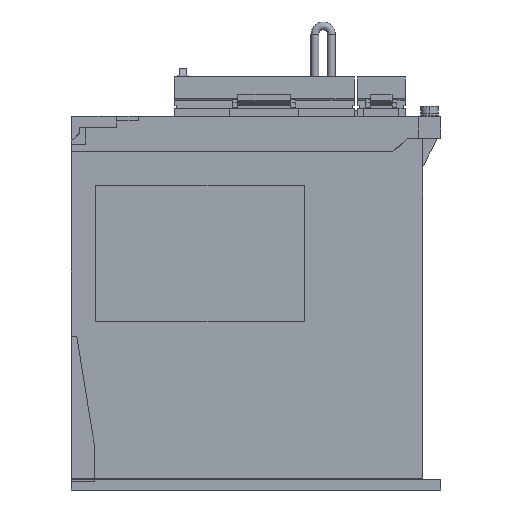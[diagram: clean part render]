
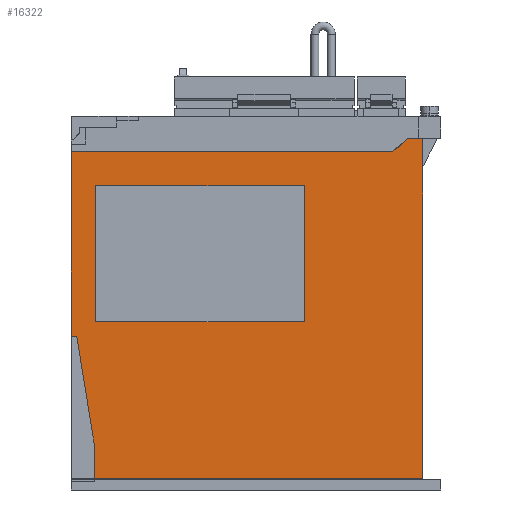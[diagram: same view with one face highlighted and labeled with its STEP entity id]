
A CAD part, left-side view. The second image highlights one B-rep face of the part: STEP entity #16322.
In plain terms, the highlighted planar face has unit normal (-1, 0, 0).
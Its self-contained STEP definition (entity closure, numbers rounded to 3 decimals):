
#14566 = VERTEX_POINT ( 'NONE', #41613 ) ;
#14568 = EDGE_CURVE ( 'NONE', #14566, #14569, #41612, .T. ) ;
#14569 = VERTEX_POINT ( 'NONE', #41608 ) ;
#14814 = VERTEX_POINT ( 'NONE', #42078 ) ;
#14816 = EDGE_CURVE ( 'NONE', #14814, #14817, #42077, .T. ) ;
#14817 = VERTEX_POINT ( 'NONE', #42073 ) ;
#15068 = VERTEX_POINT ( 'NONE', #42483 ) ;
#15183 = VERTEX_POINT ( 'NONE', #42662 ) ;
#15185 = EDGE_CURVE ( 'NONE', #15068, #15183, #42661, .T. ) ;
#16305 = EDGE_LOOP ( 'NONE', ( #16306, #16307, #16370, #16373, #16375, #16376, #16378, #16379, #16352 ) ) ;
#16306 = ORIENTED_EDGE ( 'NONE', *, *, #14568, .F. ) ;
#16307 = ORIENTED_EDGE ( 'NONE', *, *, #16308, .F. ) ;
#16308 = EDGE_CURVE ( 'NONE', #16309, #14566, #44622, .T. ) ;
#16309 = VERTEX_POINT ( 'NONE', #44618 ) ;
#16322 = ADVANCED_FACE ( 'NONE', ( #44658, #44657 ), #44656, .F. ) ;
#16323 = EDGE_LOOP ( 'NONE', ( #16324, #16384, #16387, #16390 ) ) ;
#16324 = ORIENTED_EDGE ( 'NONE', *, *, #16325, .F. ) ;
#16325 = EDGE_CURVE ( 'NONE', #16326, #16383, #44651, .T. ) ;
#16326 = VERTEX_POINT ( 'NONE', #44647 ) ;
#16352 = ORIENTED_EDGE ( 'NONE', *, *, #16354, .T. ) ;
#16354 = EDGE_CURVE ( 'NONE', #16381, #14569, #44674, .T. ) ;
#16370 = ORIENTED_EDGE ( 'NONE', *, *, #16371, .F. ) ;
#16371 = EDGE_CURVE ( 'NONE', #16372, #16309, #44705, .T. ) ;
#16372 = VERTEX_POINT ( 'NONE', #44701 ) ;
#16373 = ORIENTED_EDGE ( 'NONE', *, *, #16374, .F. ) ;
#16374 = EDGE_CURVE ( 'NONE', #15068, #16372, #44700, .T. ) ;
#16375 = ORIENTED_EDGE ( 'NONE', *, *, #15185, .T. ) ;
#16376 = ORIENTED_EDGE ( 'NONE', *, *, #16377, .T. ) ;
#16377 = EDGE_CURVE ( 'NONE', #15183, #14817, #44760, .T. ) ;
#16378 = ORIENTED_EDGE ( 'NONE', *, *, #14816, .F. ) ;
#16379 = ORIENTED_EDGE ( 'NONE', *, *, #16380, .T. ) ;
#16380 = EDGE_CURVE ( 'NONE', #14814, #16381, #44756, .T. ) ;
#16381 = VERTEX_POINT ( 'NONE', #44752 ) ;
#16383 = VERTEX_POINT ( 'NONE', #44747 ) ;
#16384 = ORIENTED_EDGE ( 'NONE', *, *, #16385, .F. ) ;
#16385 = EDGE_CURVE ( 'NONE', #16386, #16326, #44746, .T. ) ;
#16386 = VERTEX_POINT ( 'NONE', #44742 ) ;
#16387 = ORIENTED_EDGE ( 'NONE', *, *, #16388, .F. ) ;
#16388 = EDGE_CURVE ( 'NONE', #16389, #16386, #44741, .T. ) ;
#16389 = VERTEX_POINT ( 'NONE', #44737 ) ;
#16390 = ORIENTED_EDGE ( 'NONE', *, *, #16391, .F. ) ;
#16391 = EDGE_CURVE ( 'NONE', #16383, #16389, #44736, .T. ) ;
#41608 = CARTESIAN_POINT ( 'NONE',  ( -5., -155., 5.2 ) ) ;
#41609 = DIRECTION ( 'NONE',  ( 0., 0., -1. ) ) ;
#41610 = VECTOR ( 'NONE', #41609, 1000. ) ;
#41611 = CARTESIAN_POINT ( 'NONE',  ( -5., -155., 318.924 ) ) ;
#41612 = LINE ( 'NONE', #41611, #41610 ) ;
#41613 = CARTESIAN_POINT ( 'NONE',  ( -5., -155., 159.8 ) ) ;
#42073 = CARTESIAN_POINT ( 'NONE',  ( -5., 2.577, 70. ) ) ;
#42074 = DIRECTION ( 'NONE',  ( 0., 0.159, 0.987 ) ) ;
#42075 = VECTOR ( 'NONE', #42074, 1000. ) ;
#42076 = CARTESIAN_POINT ( 'NONE',  ( -5., -5.5, 20. ) ) ;
#42077 = LINE ( 'NONE', #42076, #42075 ) ;
#42078 = CARTESIAN_POINT ( 'NONE',  ( -5., -5.5, 20. ) ) ;
#42483 = CARTESIAN_POINT ( 'NONE',  ( -5., 5., 154. ) ) ;
#42658 = DIRECTION ( 'NONE',  ( 0., 0., -1. ) ) ;
#42659 = VECTOR ( 'NONE', #42658, 1000. ) ;
#42660 = CARTESIAN_POINT ( 'NONE',  ( -5., 5., 318.924 ) ) ;
#42661 = LINE ( 'NONE', #42660, #42659 ) ;
#42662 = CARTESIAN_POINT ( 'NONE',  ( -5., 5., 70. ) ) ;
#44618 = CARTESIAN_POINT ( 'NONE',  ( -5., -148., 159.8 ) ) ;
#44619 = DIRECTION ( 'NONE',  ( 0., -1., 0. ) ) ;
#44620 = VECTOR ( 'NONE', #44619, 1000. ) ;
#44621 = CARTESIAN_POINT ( 'NONE',  ( -5., -153., 159.8 ) ) ;
#44622 = LINE ( 'NONE', #44621, #44620 ) ;
#44647 = CARTESIAN_POINT ( 'NONE',  ( -5., -6., 76.5 ) ) ;
#44648 = DIRECTION ( 'NONE',  ( 0., -1., 0. ) ) ;
#44649 = VECTOR ( 'NONE', #44648, 1000. ) ;
#44650 = CARTESIAN_POINT ( 'NONE',  ( -5., -6., 76.5 ) ) ;
#44651 = LINE ( 'NONE', #44650, #44649 ) ;
#44652 = DIRECTION ( 'NONE',  ( 0., 1., 0. ) ) ;
#44653 = DIRECTION ( 'NONE',  ( 1., 0., 0. ) ) ;
#44654 = CARTESIAN_POINT ( 'NONE',  ( -5., 5., 318.924 ) ) ;
#44655 = AXIS2_PLACEMENT_3D ( 'NONE', #44654, #44653, #44652 ) ;
#44656 = PLANE ( 'NONE',  #44655 ) ;
#44657 = FACE_OUTER_BOUND ( 'NONE', #16305, .T. ) ;
#44658 = FACE_BOUND ( 'NONE', #16323, .T. ) ;
#44671 = DIRECTION ( 'NONE',  ( 0., -1., 0. ) ) ;
#44672 = VECTOR ( 'NONE', #44671, 1000. ) ;
#44673 = CARTESIAN_POINT ( 'NONE',  ( -5., -5.5, 5.2 ) ) ;
#44674 = LINE ( 'NONE', #44673, #44672 ) ;
#44697 = DIRECTION ( 'NONE',  ( 0., -1., 0. ) ) ;
#44698 = VECTOR ( 'NONE', #44697, 1000. ) ;
#44699 = CARTESIAN_POINT ( 'NONE',  ( -5., 13.365, 154. ) ) ;
#44700 = LINE ( 'NONE', #44699, #44698 ) ;
#44701 = CARTESIAN_POINT ( 'NONE',  ( -5., -141.328, 154. ) ) ;
#44702 = DIRECTION ( 'NONE',  ( 0., -0.755, 0.656 ) ) ;
#44703 = VECTOR ( 'NONE', #44702, 1000. ) ;
#44704 = CARTESIAN_POINT ( 'NONE',  ( -5., -141.328, 154. ) ) ;
#44705 = LINE ( 'NONE', #44704, #44703 ) ;
#44733 = DIRECTION ( 'NONE',  ( 0., 0., 1. ) ) ;
#44734 = VECTOR ( 'NONE', #44733, 1000. ) ;
#44735 = CARTESIAN_POINT ( 'NONE',  ( -5., -101., 76.5 ) ) ;
#44736 = LINE ( 'NONE', #44735, #44734 ) ;
#44737 = CARTESIAN_POINT ( 'NONE',  ( -5., -101., 138.5 ) ) ;
#44738 = DIRECTION ( 'NONE',  ( 0., 1., 0. ) ) ;
#44739 = VECTOR ( 'NONE', #44738, 1000. ) ;
#44740 = CARTESIAN_POINT ( 'NONE',  ( -5., -6., 138.5 ) ) ;
#44741 = LINE ( 'NONE', #44740, #44739 ) ;
#44742 = CARTESIAN_POINT ( 'NONE',  ( -5., -6., 138.5 ) ) ;
#44743 = DIRECTION ( 'NONE',  ( 0., 0., -1. ) ) ;
#44744 = VECTOR ( 'NONE', #44743, 1000. ) ;
#44745 = CARTESIAN_POINT ( 'NONE',  ( -5., -6., 76.5 ) ) ;
#44746 = LINE ( 'NONE', #44745, #44744 ) ;
#44747 = CARTESIAN_POINT ( 'NONE',  ( -5., -101., 76.5 ) ) ;
#44752 = CARTESIAN_POINT ( 'NONE',  ( -5., -5.5, 5.2 ) ) ;
#44753 = DIRECTION ( 'NONE',  ( 0., 0., -1. ) ) ;
#44754 = VECTOR ( 'NONE', #44753, 1000. ) ;
#44755 = CARTESIAN_POINT ( 'NONE',  ( -5., -5.5, 20. ) ) ;
#44756 = LINE ( 'NONE', #44755, #44754 ) ;
#44757 = DIRECTION ( 'NONE',  ( 0., -1., 0. ) ) ;
#44758 = VECTOR ( 'NONE', #44757, 1000. ) ;
#44759 = CARTESIAN_POINT ( 'NONE',  ( -5., 5., 70. ) ) ;
#44760 = LINE ( 'NONE', #44759, #44758 ) ;
